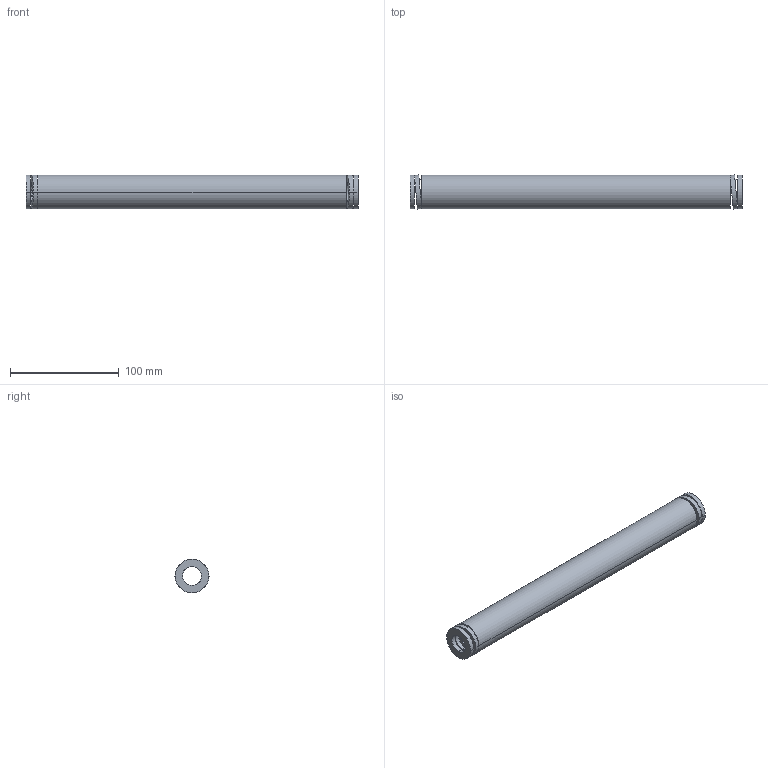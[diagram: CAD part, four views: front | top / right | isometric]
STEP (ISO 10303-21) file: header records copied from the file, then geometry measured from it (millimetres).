
FILE_DESCRIPTION(('CATIA V5 STEP Exchange'),'2;1');
FILE_NAME('C:\Users\Utente\Desktop\IO LAVORO\3D X SITO CF\X SITO\3D files 392B\392-B32-305.stp','2021-08-13T10:13:25+00:00',('none'),('none'),'CATIA Version 5 Release 20 GA (IN-10)','CATIA V5 STEP AP203','none');
FILE_SCHEMA(('CONFIG_CONTROL_DESIGN'));
Length unit declared in the file: millimetre
Products named in the file (1): 392-B32-305
Bounding box: 305 x 31.24 x 31 mm (x, y, z)
Volume: 154665.7 mm3; surface area: 50663.2 mm2
Topology: 1 solids, 1 shells, 38 faces, 92 edges, 64 vertices
Faces by surface type: cylinder 28, plane 10
Entity records: 1560 total; most frequent: CARTESIAN_POINT 667, ORIENTED_EDGE 184, DIRECTION 131, EDGE_CURVE 92, AXIS2_PLACEMENT_3D 66, VERTEX_POINT 64, EDGE_LOOP 56, ADVANCED_FACE 38
